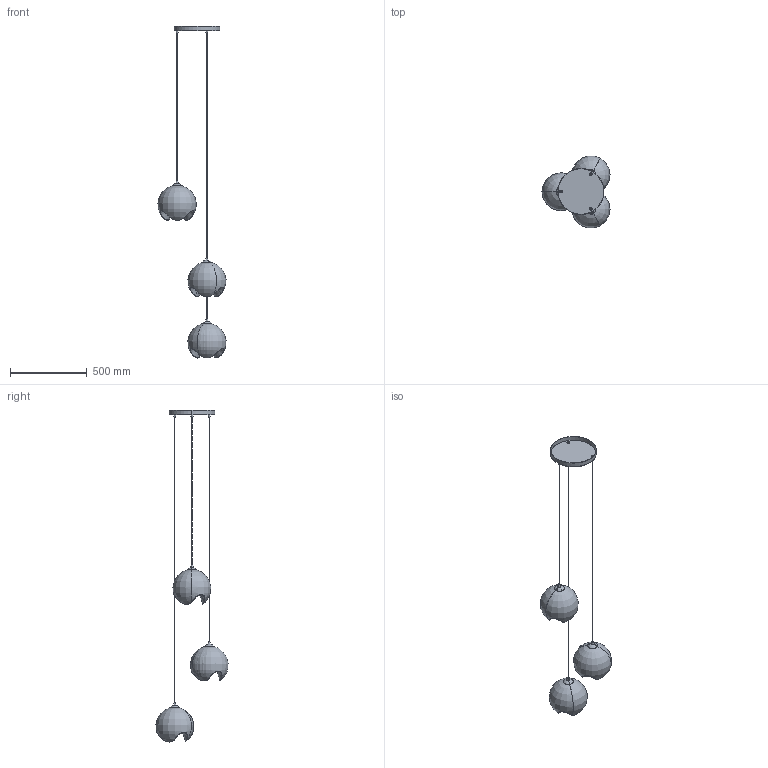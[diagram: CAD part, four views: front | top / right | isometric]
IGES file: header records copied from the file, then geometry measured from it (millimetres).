
Start section: SolidWorks IGES file using analytic representation for surfaces
Global section: file name: F:\燠隴矨\3D\2025-11\Wave Pendant Light-3heads.IGS,15; native system: HSolidWorks 2022; preprocessor: SolidWorks 2022; author: MyPC; date: 251106.205006; units: millimetre
Bounding box: 444.4 x 470.77 x 2169.45 mm (x, y, z)
Surface area: 1518887.8 mm2 (no closed solid volume)
Topology: 0 solids, 0 shells, 233 faces, 6602 edges, 6582 vertices
Faces by surface type: revolution 128, bspline 105
